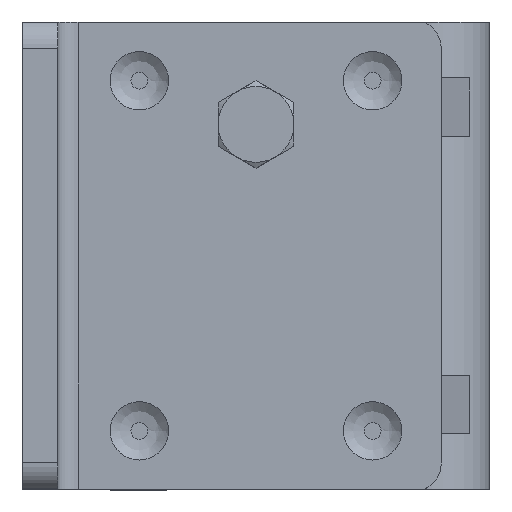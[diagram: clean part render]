
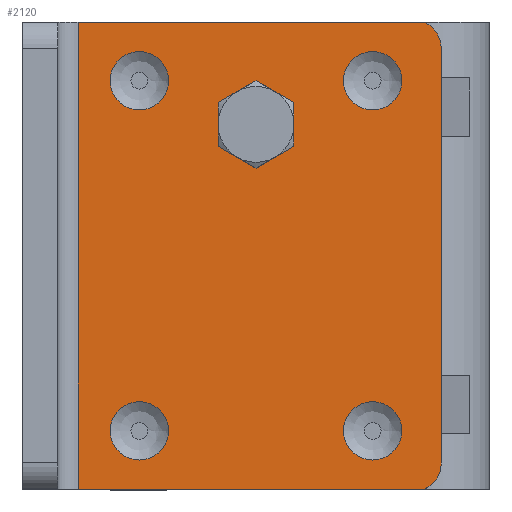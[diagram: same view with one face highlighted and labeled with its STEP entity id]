
A CAD part, top view. The second image highlights one B-rep face of the part: STEP entity #2120.
In plain terms, the highlighted planar face has unit normal (0, 0, 1).
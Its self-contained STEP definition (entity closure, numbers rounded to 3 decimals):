
#38=FACE_BOUND('',#356,.T.);
#39=FACE_BOUND('',#357,.T.);
#40=FACE_BOUND('',#358,.T.);
#41=FACE_BOUND('',#359,.T.);
#42=FACE_BOUND('',#360,.T.);
#210=FACE_OUTER_BOUND('',#355,.T.);
#355=EDGE_LOOP('',(#1559,#1560,#1561,#1562,#1563,#1564));
#356=EDGE_LOOP('',(#1565,#1566));
#357=EDGE_LOOP('',(#1567,#1568));
#358=EDGE_LOOP('',(#1569,#1570));
#359=EDGE_LOOP('',(#1571,#1572));
#360=EDGE_LOOP('',(#1573));
#526=CIRCLE('',#2281,5.);
#527=CIRCLE('',#2282,5.);
#529=CIRCLE('',#2285,5.);
#530=CIRCLE('',#2286,5.);
#532=CIRCLE('',#2289,5.);
#533=CIRCLE('',#2290,5.);
#535=CIRCLE('',#2293,5.);
#536=CIRCLE('',#2294,5.);
#542=CIRCLE('',#2307,5.);
#543=CIRCLE('',#2308,5.);
#544=CIRCLE('',#2309,6.);
#651=LINE('',#3576,#809);
#655=LINE('',#3583,#813);
#656=LINE('',#3588,#814);
#657=LINE('',#3591,#815);
#809=VECTOR('',#2676,80.);
#813=VECTOR('',#2682,59.429);
#814=VECTOR('',#2687,71.);
#815=VECTOR('',#2690,59.429);
#971=VERTEX_POINT('',#3433);
#972=VERTEX_POINT('',#3434);
#974=VERTEX_POINT('',#3470);
#975=VERTEX_POINT('',#3471);
#977=VERTEX_POINT('',#3507);
#978=VERTEX_POINT('',#3508);
#980=VERTEX_POINT('',#3544);
#981=VERTEX_POINT('',#3545);
#986=VERTEX_POINT('',#3560);
#989=VERTEX_POINT('',#3567);
#992=VERTEX_POINT('',#3581);
#993=VERTEX_POINT('',#3585);
#994=VERTEX_POINT('',#3587);
#995=VERTEX_POINT('',#3589);
#996=VERTEX_POINT('',#3592);
#1174=EDGE_CURVE('',#971,#972,#526,.T.);
#1175=EDGE_CURVE('',#972,#971,#527,.T.);
#1178=EDGE_CURVE('',#974,#975,#529,.T.);
#1179=EDGE_CURVE('',#975,#974,#530,.T.);
#1182=EDGE_CURVE('',#977,#978,#532,.T.);
#1183=EDGE_CURVE('',#978,#977,#533,.T.);
#1186=EDGE_CURVE('',#980,#981,#535,.T.);
#1187=EDGE_CURVE('',#981,#980,#536,.T.);
#1200=EDGE_CURVE('',#986,#989,#651,.T.);
#1204=EDGE_CURVE('',#989,#992,#655,.T.);
#1205=EDGE_CURVE('',#992,#993,#542,.T.);
#1206=EDGE_CURVE('',#993,#994,#656,.T.);
#1207=EDGE_CURVE('',#994,#995,#543,.T.);
#1208=EDGE_CURVE('',#995,#986,#657,.T.);
#1209=EDGE_CURVE('',#996,#996,#544,.T.);
#1559=ORIENTED_EDGE('',*,*,#1200,.T.);
#1560=ORIENTED_EDGE('',*,*,#1204,.T.);
#1561=ORIENTED_EDGE('',*,*,#1205,.T.);
#1562=ORIENTED_EDGE('',*,*,#1206,.T.);
#1563=ORIENTED_EDGE('',*,*,#1207,.T.);
#1564=ORIENTED_EDGE('',*,*,#1208,.T.);
#1565=ORIENTED_EDGE('',*,*,#1178,.T.);
#1566=ORIENTED_EDGE('',*,*,#1179,.T.);
#1567=ORIENTED_EDGE('',*,*,#1174,.T.);
#1568=ORIENTED_EDGE('',*,*,#1175,.T.);
#1569=ORIENTED_EDGE('',*,*,#1182,.T.);
#1570=ORIENTED_EDGE('',*,*,#1183,.T.);
#1571=ORIENTED_EDGE('',*,*,#1186,.T.);
#1572=ORIENTED_EDGE('',*,*,#1187,.T.);
#1573=ORIENTED_EDGE('',*,*,#1209,.T.);
#2016=PLANE('',#2306);
#2120=ADVANCED_FACE('',(#210,#38,#39,#40,#41,#42),#2016,.T.);
#2281=AXIS2_PLACEMENT_3D('',#3435,#2622,#2623);
#2282=AXIS2_PLACEMENT_3D('',#3436,#2624,#2625);
#2285=AXIS2_PLACEMENT_3D('',#3472,#2630,#2631);
#2286=AXIS2_PLACEMENT_3D('',#3473,#2632,#2633);
#2289=AXIS2_PLACEMENT_3D('',#3509,#2638,#2639);
#2290=AXIS2_PLACEMENT_3D('',#3510,#2640,#2641);
#2293=AXIS2_PLACEMENT_3D('',#3546,#2646,#2647);
#2294=AXIS2_PLACEMENT_3D('',#3547,#2648,#2649);
#2306=AXIS2_PLACEMENT_3D('',#3584,#2683,#2684);
#2307=AXIS2_PLACEMENT_3D('',#3586,#2685,#2686);
#2308=AXIS2_PLACEMENT_3D('',#3590,#2688,#2689);
#2309=AXIS2_PLACEMENT_3D('',#3593,#2691,#2692);
#2622=DIRECTION('center_axis',(0.,0.,-1.));
#2623=DIRECTION('ref_axis',(-1.,0.,0.));
#2624=DIRECTION('center_axis',(0.,0.,-1.));
#2625=DIRECTION('ref_axis',(-1.,0.,0.));
#2630=DIRECTION('center_axis',(0.,0.,-1.));
#2631=DIRECTION('ref_axis',(-1.,0.,0.));
#2632=DIRECTION('center_axis',(0.,0.,-1.));
#2633=DIRECTION('ref_axis',(-1.,0.,0.));
#2638=DIRECTION('center_axis',(0.,0.,-1.));
#2639=DIRECTION('ref_axis',(-1.,0.,0.));
#2640=DIRECTION('center_axis',(0.,0.,-1.));
#2641=DIRECTION('ref_axis',(-1.,0.,0.));
#2646=DIRECTION('center_axis',(0.,0.,-1.));
#2647=DIRECTION('ref_axis',(-1.,0.,0.));
#2648=DIRECTION('center_axis',(0.,0.,-1.));
#2649=DIRECTION('ref_axis',(-1.,0.,0.));
#2676=DIRECTION('',(0.,1.,0.));
#2682=DIRECTION('',(-1.,0.,0.));
#2683=DIRECTION('center_axis',(0.,0.,1.));
#2684=DIRECTION('ref_axis',(1.,0.,0.));
#2685=DIRECTION('center_axis',(0.,0.,1.));
#2686=DIRECTION('ref_axis',(-0.436,0.9,0.));
#2687=DIRECTION('',(0.,-1.,0.));
#2688=DIRECTION('center_axis',(0.,0.,1.));
#2689=DIRECTION('ref_axis',(-1.,0.,0.));
#2690=DIRECTION('',(1.,0.,0.));
#2691=DIRECTION('center_axis',(0.,0.,-1.));
#2692=DIRECTION('ref_axis',(-1.,0.,0.));
#3433=CARTESIAN_POINT('',(-75.25,-30.,0.));
#3434=CARTESIAN_POINT('',(-85.25,-30.,0.));
#3435=CARTESIAN_POINT('Origin',(-80.25,-30.,0.));
#3436=CARTESIAN_POINT('Origin',(-80.25,-30.,0.));
#3470=CARTESIAN_POINT('',(-35.25,-30.,0.));
#3471=CARTESIAN_POINT('',(-45.25,-30.,0.));
#3472=CARTESIAN_POINT('Origin',(-40.25,-30.,0.));
#3473=CARTESIAN_POINT('Origin',(-40.25,-30.,0.));
#3507=CARTESIAN_POINT('',(-35.25,30.,0.));
#3508=CARTESIAN_POINT('',(-45.25,30.,0.));
#3509=CARTESIAN_POINT('Origin',(-40.25,30.,0.));
#3510=CARTESIAN_POINT('Origin',(-40.25,30.,0.));
#3544=CARTESIAN_POINT('',(-75.25,30.,0.));
#3545=CARTESIAN_POINT('',(-85.25,30.,0.));
#3546=CARTESIAN_POINT('Origin',(-80.25,30.,0.));
#3547=CARTESIAN_POINT('Origin',(-80.25,30.,0.));
#3560=CARTESIAN_POINT('',(-29.75,-40.,0.));
#3567=CARTESIAN_POINT('',(-29.75,40.,0.));
#3576=CARTESIAN_POINT('',(-29.75,20.,0.));
#3581=CARTESIAN_POINT('',(-89.179,40.,0.));
#3583=CARTESIAN_POINT('',(15.179,40.,0.));
#3584=CARTESIAN_POINT('Origin',(-37.,0.,0.));
#3585=CARTESIAN_POINT('',(-92.,35.5,0.));
#3586=CARTESIAN_POINT('Origin',(-87.,35.5,0.));
#3587=CARTESIAN_POINT('',(-92.,-35.5,0.));
#3588=CARTESIAN_POINT('',(-92.,35.5,0.));
#3589=CARTESIAN_POINT('',(-89.179,-40.,0.));
#3590=CARTESIAN_POINT('Origin',(-87.,-35.5,0.));
#3591=CARTESIAN_POINT('',(-89.179,-40.,0.));
#3592=CARTESIAN_POINT('',(-54.25,-22.5,0.));
#3593=CARTESIAN_POINT('Origin',(-60.25,-22.5,0.));
